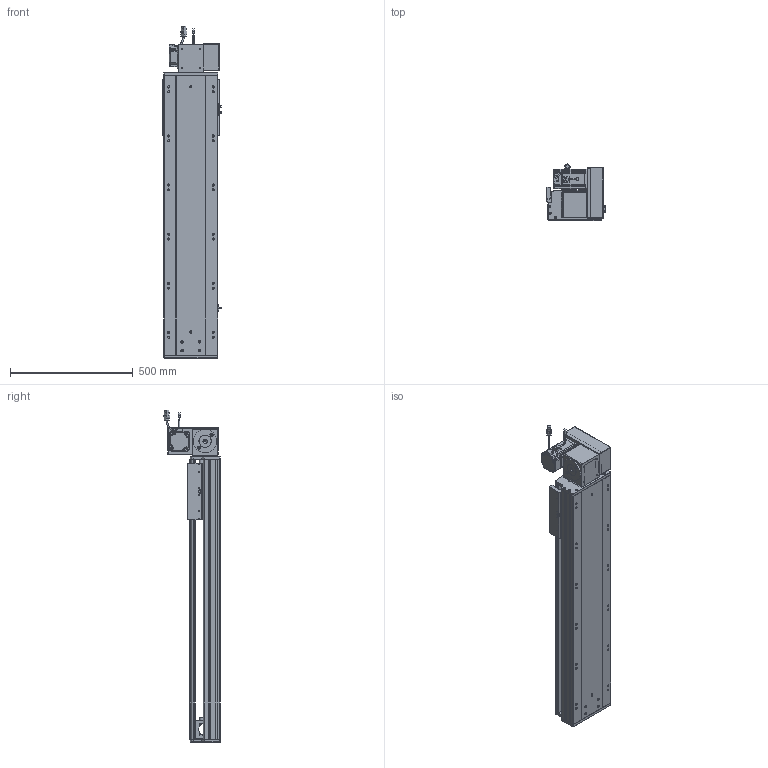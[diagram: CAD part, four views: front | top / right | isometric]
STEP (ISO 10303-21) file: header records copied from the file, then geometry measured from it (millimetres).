
FILE_DESCRIPTION (( 'STEP AP203' ), '1' );
FILE_NAME ('RY220-T-300-UR.SLDASM_800.step', '2022-07-25T08:43:05', ( '' ), ( '' ), 'SwSTEP 2.0', 'SolidWorks 2016', '' );
FILE_SCHEMA (( 'CONFIG_CONTROL_DESIGN' ));
Length unit declared in the file: millimetre
Products named in the file (14): 覜茼ん672; RY220圉猾敕々湍臏賑輸; RY220-T菁釱-300_800; RY220翋肮祭謫釱; RY220-同步轮副支撑座6304×2; RY220-俋离672覜茼んえ; RY220-T-蛌殏萇儂假蚾啣(750W); RY220-T-300-UR.SLDASM_800; 110A-T-肮祭謫釱傷裔; RY220-T-湍謫欶(鍼踢); RY220-T-300-奻裔啣_800; RY220翋肮祭謫裔啣; 滅袉蝶18-15; 怢湛750W_ECMA-CX0807ES
Assembly tree (18 placements, depth 2):
  RY220-T-300-UR.SLDASM_800
    RY220-T菁釱-300_800
    RY220翋肮祭謫釱
    覜茼ん672  x3
    RY220圉猾敕々湍臏賑輸
    RY220-T-300-奻裔啣_800
    RY220-俋离672覜茼んえ
    滅袉蝶18-15  x3
    RY220翋肮祭謫裔啣  x2
    110A-T-肮祭謫釱傷裔
    怢湛750W_ECMA-CX0807ES
    RY220-T-湍謫欶(鍼踢)
    RY220-T-蛌殏萇儂假蚾啣(750W)
    RY220-同步轮副支撑座6304×2
Bounding box: 238.7 x 231.74 x 1353.27 mm (x, y, z)
Volume: 10968196 mm3; surface area: 3157825.1 mm2
Topology: 19 solids, 19 shells, 2578 faces, 7107 edges, 4518 vertices
Faces by surface type: cylinder 1194, plane 1069, cone 233, bspline 56, sphere 16, torus 10
Entity records: 85667 total; most frequent: CARTESIAN_POINT 24471, ORIENTED_EDGE 12730, DIRECTION 11984, EDGE_CURVE 6365, AXIS2_PLACEMENT_3D 4220, VERTEX_POINT 4142, VECTOR 3544, LINE 3544
